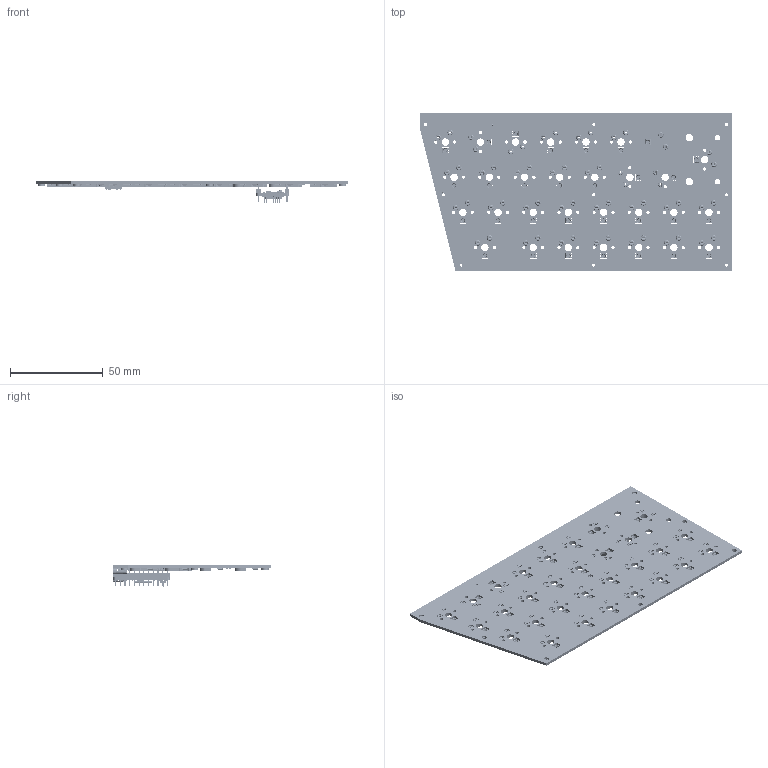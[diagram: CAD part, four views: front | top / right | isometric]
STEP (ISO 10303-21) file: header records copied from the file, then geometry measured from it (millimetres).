
FILE_DESCRIPTION(('KiCad electronic assembly'),'2;1');
FILE_NAME('CustomKeyboard_cradoll_keyboard_right.step', '2025-04-26T12:51:07',('Pcbnew'),('Kicad'), 'Open CASCADE STEP processor 7.8','KiCad to STEP converter','Unknown' );
FILE_SCHEMA(('AUTOMOTIVE_DESIGN { 1 0 10303 214 1 1 1 1 }'));
Length unit declared in the file: millimetre
Products named in the file (24): CustomKeyboard_cradoll_keyboard_right 1; Kailh Hotswap MX v22; LED_SK6812MINI-E; SK6812MINI-E v4; SOD123_DIO; part; R_0603_1608Metric; TH-0.8-1.0-M2; TH-0.8-1.0-M2 v1; SOIC-8_3.9x4.9mm_P1.27mm; SOIC_8_39x49mm_P127mm; C_0603_1608Metric; USB4110GFA; USB4110-GF-A_revB; CustomKeyboard_MCU_NonBLE; CustomKeyboard_MCU_NonBLE 1; MSOP-8_3x3mm_P0.65mm; MSOP_8_3x3mm_P065mm; SOT-353_SC-70-5; SOT_353_SC_70_5; CustomKeyboard_cradoll_keyboard_right_PCB
Assembly tree (144 placements, depth 3):
  CustomKeyboard_cradoll_keyboard_right 1
    Kailh Hotswap MX v22  x30
      Kailh Hotswap MX v22
    LED_SK6812MINI-E  x30
      SK6812MINI-E v4
    SOD123_DIO  x30
      part
    R_0603_1608Metric  x21
      R_0603_1608Metric
    TH-0.8-1.0-M2  x9
      TH-0.8-1.0-M2 v1
    SOIC-8_3.9x4.9mm_P1.27mm
      SOIC_8_39x49mm_P127mm
    C_0603_1608Metric  x7
      C_0603_1608Metric
    USB4110GFA
      USB4110-GF-A_revB
    CustomKeyboard_MCU_NonBLE
      CustomKeyboard_MCU_NonBLE 1
    MSOP-8_3x3mm_P0.65mm
      MSOP_8_3x3mm_P065mm
    SOT-353_SC-70-5
      SOT_353_SC_70_5
    CustomKeyboard_cradoll_keyboard_right_PCB
Bounding box: 168.75 x 85.03 x 11.9 mm (x, y, z)
Volume: 24679.5 mm3; surface area: 45268.9 mm2
Topology: 583 solids, 583 shells, 42847 faces, 99598 edges, 58723 vertices
Faces by surface type: plane 18230, cylinder 11721, bspline 9042, torus 3060, sphere 634, cone 160
Full cylindrical faces by diameter (mm): 0.142 x30, 0.2 x4, 0.25 x1, 0.3 x1, 0.5 x62, 0.6 x1, 0.65 x2, 0.7 x60, 0.75 x120, 1 x84, 1.6 x60, 1.623 x9, 1.75 x60, 2.5 x9, 2.7 x9, 2.92 x60, 3 x60, 3.05 x2, 3.988 x30, 4 x11
Entity records: 238393 total; most frequent: CARTESIAN_POINT 55373, ORIENTED_EDGE 37828, DIRECTION 35422, EDGE_CURVE 18914, LINE 13866, VECTOR 13866, VERTEX_POINT 11991, AXIS2_PLACEMENT_3D 10778
